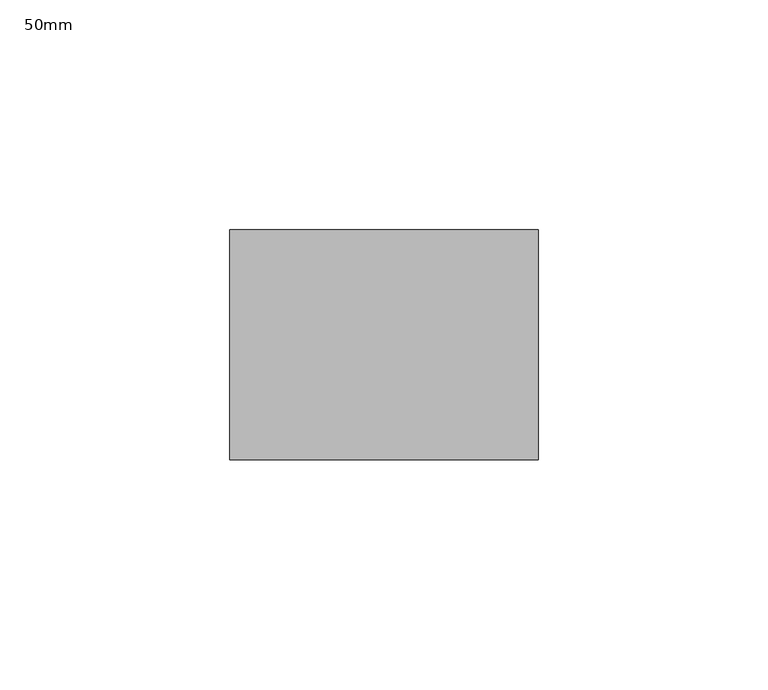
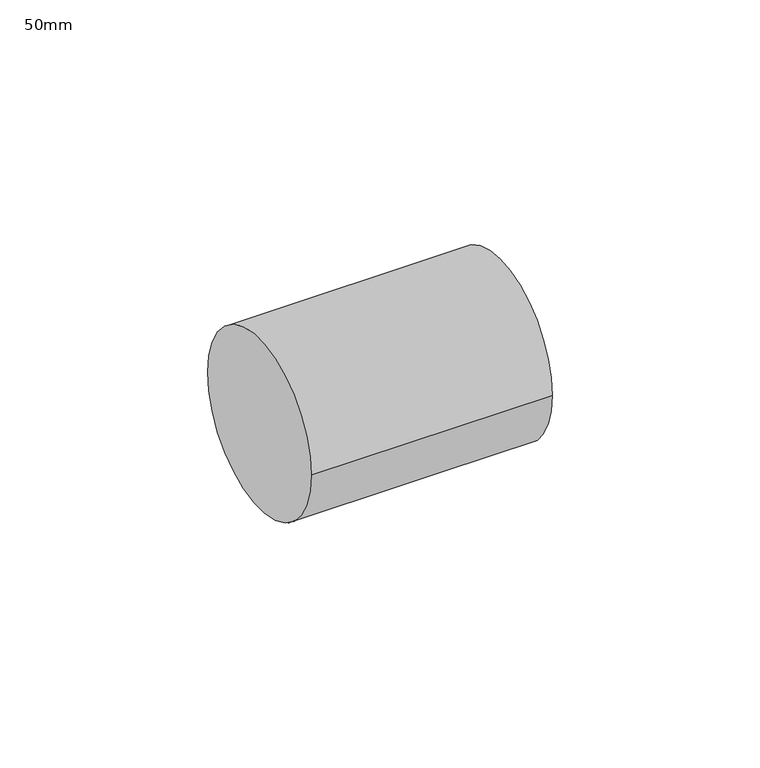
"""IFC4 building model written with IfcOpenShell, lengths in millimetres: pipe fitting geometry, PipeFitting_HTA_CPVC_PlainNipples : 50mm."""

from ifc_helpers import new_model, si_unit, point, frame, origin, origin_2d, place, context, project, spatial, circle_curve, trimmed, segment, composite_curve, outline, extrude, source, transform, mapped, element, save


def pipe_fitting_50mm_2624cc3b(model_context):
    return source(origin(), model_context, "Body", "SweptSolid", [
        extrude(outline(composite_curve([segment(trimmed(circle_curve(origin_2d(), 25.0), [point((-25.0, 0.0))], [point((25.0, 0.0))], False, "CARTESIAN"), True, "CONTINUOUS"), segment(trimmed(circle_curve(origin_2d(), 25.0), [point((25.0, 0.0))], [point((-25.0, 0.0))], False, "CARTESIAN"), True, "CONTINUOUS")], self_intersect=False)), frame((-33.5, 0.0, 0.0), z_axis=(1.0, 0.0, 0.0), x_axis=(0.0, 1.0, 0.0)), (0.0, 0.0, 1.0), 67.0),
    ])


if __name__ == "__main__":
    model = new_model("IFC4")
    model_context = context("Model", 3, world=origin())
    ifc_project = project(units=[si_unit("LENGTHUNIT", "METRE", prefix="MILLI")], contexts=[model_context])
    site = spatial("IfcSite", under=ifc_project)
    building = spatial("IfcBuilding", under=site)
    placement = place(None, origin())
    pipe_fitting_50mm_shape = pipe_fitting_50mm_2624cc3b(model_context)
    element("IfcPipeFitting", 1, ObjectType="PipeFitting_HTA_CPVC_PlainNipples : 50mm", at=placement, inside=building, context=model_context, shape_type="MappedRepresentation", body=[
        mapped(pipe_fitting_50mm_shape, transform((0.0, 0.0, 0.0), x_axis=(1.0, 0.0, 0.0), y_axis=(0.0, 1.0, 0.0), z_axis=(0.0, 0.0, 1.0))),
    ])
    save(model, "model.ifc")
